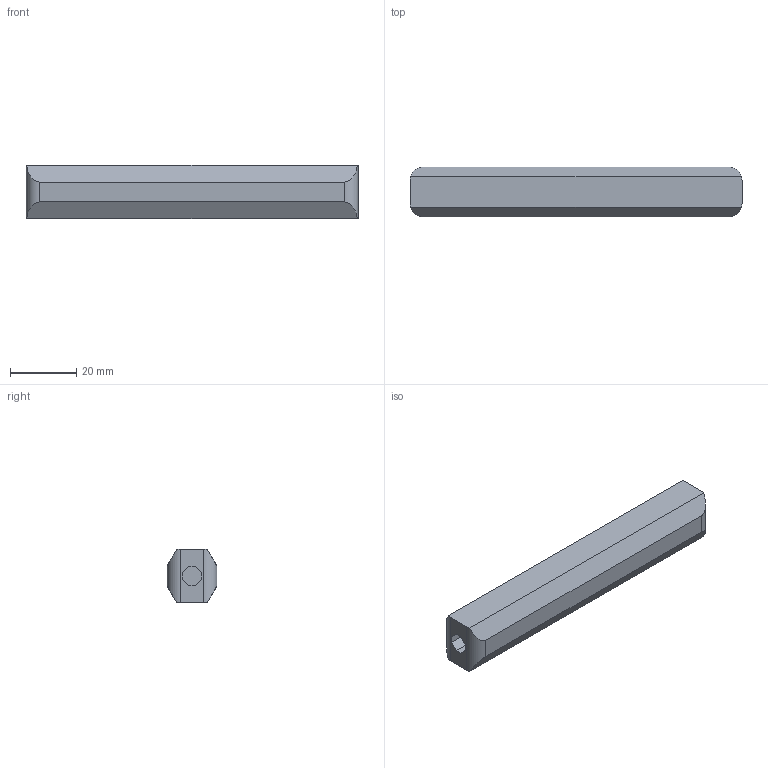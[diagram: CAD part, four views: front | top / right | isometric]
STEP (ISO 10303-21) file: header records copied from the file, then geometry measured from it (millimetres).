
FILE_DESCRIPTION((''),'2;1');
FILE_NAME('','2013-01-06T11:59:31+00:00',('none'),('none'),'','','none');
FILE_SCHEMA((''));
Length unit declared in the file: millimetre
Products named in the file (1): Lame Handle No Logo
Bounding box: 100 x 15 x 16 mm (x, y, z)
Volume: 19308.6 mm3; surface area: 6855.8 mm2
Topology: 1 solids, 1 shells, 23 faces, 60 edges, 40 vertices
Faces by surface type: plane 19, cylinder 4
Entity records: 848 total; most frequent: CARTESIAN_POINT 249, ORIENTED_EDGE 120, DIRECTION 100, EDGE_CURVE 60, VECTOR 44, LINE 44, VERTEX_POINT 40, AXIS2_PLACEMENT_3D 33
